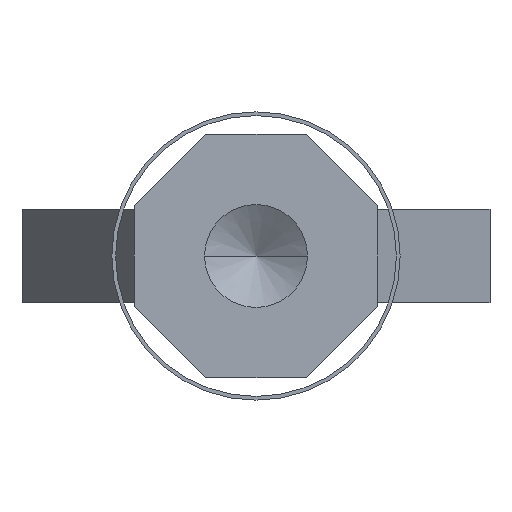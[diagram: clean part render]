
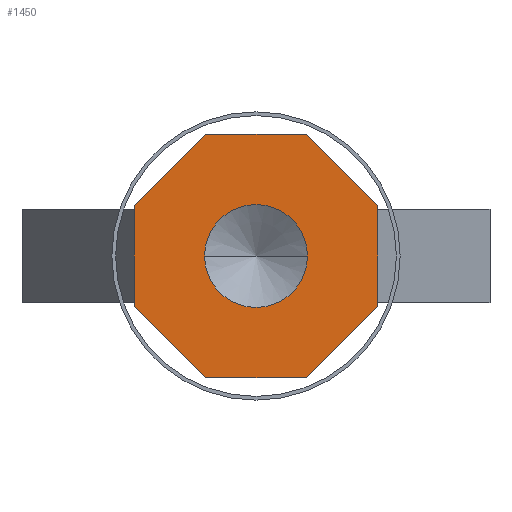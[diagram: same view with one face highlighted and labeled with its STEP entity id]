
A CAD part, left-side view. The second image highlights one B-rep face of the part: STEP entity #1450.
In plain terms, the highlighted planar face has unit normal (-1, 0, 0).
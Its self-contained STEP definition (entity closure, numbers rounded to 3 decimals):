
#266=DIRECTION('',(0.,0.707,0.707));
#267=VECTOR('',#266,10.77);
#268=CARTESIAN_POINT('',(-135.,5.385,-13.));
#269=LINE('',#268,#267);
#270=DIRECTION('',(0.,0.,1.));
#271=VECTOR('',#270,10.77);
#272=CARTESIAN_POINT('',(-135.,13.,-5.385));
#273=LINE('',#272,#271);
#274=DIRECTION('',(0.,-0.707,0.707));
#275=VECTOR('',#274,10.77);
#276=CARTESIAN_POINT('',(-135.,13.,5.385));
#277=LINE('',#276,#275);
#278=DIRECTION('',(0.,-1.,0.));
#279=VECTOR('',#278,10.77);
#280=CARTESIAN_POINT('',(-135.,5.385,13.));
#281=LINE('',#280,#279);
#282=DIRECTION('',(0.,-0.707,-0.707));
#283=VECTOR('',#282,10.77);
#284=CARTESIAN_POINT('',(-135.,-5.385,13.));
#285=LINE('',#284,#283);
#286=DIRECTION('',(0.,0.,-1.));
#287=VECTOR('',#286,10.77);
#288=CARTESIAN_POINT('',(-135.,-13.,5.385));
#289=LINE('',#288,#287);
#290=DIRECTION('',(0.,0.707,-0.707));
#291=VECTOR('',#290,10.77);
#292=CARTESIAN_POINT('',(-135.,-13.,-5.385));
#293=LINE('',#292,#291);
#294=DIRECTION('',(0.,1.,0.));
#295=VECTOR('',#294,10.77);
#296=CARTESIAN_POINT('',(-135.,-5.385,-13.));
#297=LINE('',#296,#295);
#298=CARTESIAN_POINT('',(-135.,0.,0.));
#299=DIRECTION('',(-1.,0.,0.));
#300=DIRECTION('',(0.,1.,0.));
#301=AXIS2_PLACEMENT_3D('',#298,#299,#300);
#303=CARTESIAN_POINT('',(-135.,0.,0.));
#304=DIRECTION('',(-1.,0.,0.));
#305=DIRECTION('',(0.,-1.,0.));
#306=AXIS2_PLACEMENT_3D('',#303,#304,#305);
#774=CARTESIAN_POINT('',(-135.,5.385,-13.));
#775=CARTESIAN_POINT('',(-135.,13.,-5.385));
#776=VERTEX_POINT('',#774);
#777=VERTEX_POINT('',#775);
#778=CARTESIAN_POINT('',(-135.,13.,5.385));
#779=VERTEX_POINT('',#778);
#780=CARTESIAN_POINT('',(-135.,5.385,13.));
#781=VERTEX_POINT('',#780);
#782=CARTESIAN_POINT('',(-135.,-5.385,13.));
#783=VERTEX_POINT('',#782);
#784=CARTESIAN_POINT('',(-135.,-13.,5.385));
#785=VERTEX_POINT('',#784);
#786=CARTESIAN_POINT('',(-135.,-13.,-5.385));
#787=VERTEX_POINT('',#786);
#788=CARTESIAN_POINT('',(-135.,-5.385,-13.));
#789=VERTEX_POINT('',#788);
#876=CARTESIAN_POINT('',(-135.,5.5,0.));
#877=CARTESIAN_POINT('',(-135.,-5.5,0.));
#878=VERTEX_POINT('',#876);
#879=VERTEX_POINT('',#877);
#1427=CARTESIAN_POINT('',(-135.,0.,0.));
#1428=DIRECTION('',(1.,0.,0.));
#1429=DIRECTION('',(0.,-1.,0.));
#1430=AXIS2_PLACEMENT_3D('',#1427,#1428,#1429);
#1431=PLANE('',#1430);
#1432=ORIENTED_EDGE('',*,*,#1294,.T.);
#1433=ORIENTED_EDGE('',*,*,#1323,.T.);
#1434=ORIENTED_EDGE('',*,*,#1356,.T.);
#1435=ORIENTED_EDGE('',*,*,#1383,.T.);
#1436=ORIENTED_EDGE('',*,*,#1409,.T.);
#1437=ORIENTED_EDGE('',*,*,#1072,.T.);
#1439=ORIENTED_EDGE('',*,*,#1438,.T.);
#1441=ORIENTED_EDGE('',*,*,#1440,.T.);
#1442=EDGE_LOOP('',(#1432,#1433,#1434,#1435,#1436,#1437,#1439,#1441));
#1443=FACE_OUTER_BOUND('',#1442,.F.);
#1445=ORIENTED_EDGE('',*,*,#1444,.T.);
#1447=ORIENTED_EDGE('',*,*,#1446,.T.);
#1448=EDGE_LOOP('',(#1445,#1447));
#1449=FACE_BOUND('',#1448,.F.);
#1450=ADVANCED_FACE('',(#1443,#1449),#1431,.F.);
#302=CIRCLE('',#301,5.5);
#307=CIRCLE('',#306,5.5);
#1072=EDGE_CURVE('',#785,#787,#289,.T.);
#1294=EDGE_CURVE('',#776,#777,#269,.T.);
#1323=EDGE_CURVE('',#777,#779,#273,.T.);
#1356=EDGE_CURVE('',#779,#781,#277,.T.);
#1383=EDGE_CURVE('',#781,#783,#281,.T.);
#1409=EDGE_CURVE('',#783,#785,#285,.T.);
#1438=EDGE_CURVE('',#787,#789,#293,.T.);
#1440=EDGE_CURVE('',#789,#776,#297,.T.);
#1444=EDGE_CURVE('',#878,#879,#302,.T.);
#1446=EDGE_CURVE('',#879,#878,#307,.T.);
